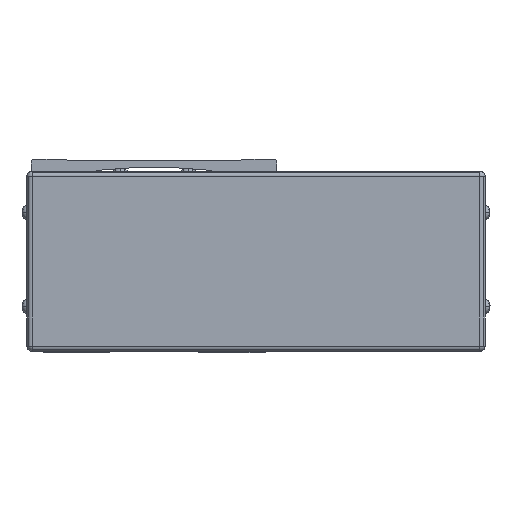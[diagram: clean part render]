
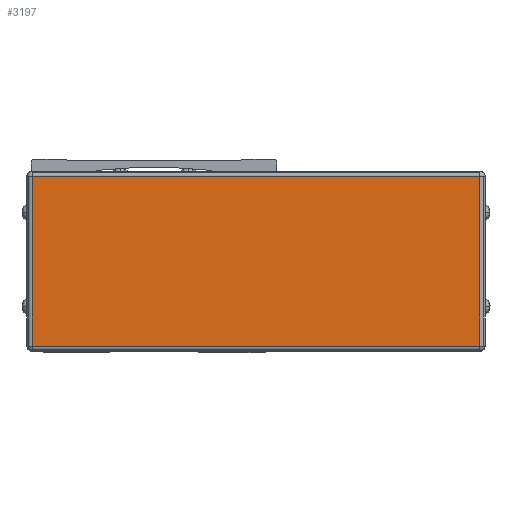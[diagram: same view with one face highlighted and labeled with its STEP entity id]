
A CAD part, front view. The second image highlights one B-rep face of the part: STEP entity #3197.
In plain terms, the highlighted planar face has unit normal (0, -1, 0).
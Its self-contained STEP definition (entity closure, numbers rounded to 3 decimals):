
#3197=ADVANCED_FACE('',(#7998),#7999,.T.);
#7998=FACE_OUTER_BOUND('',#15143,.T.);
#7999=PLANE('',#15144);
#15143=EDGE_LOOP('',(#25052,#25053,#25054,#25055));
#15144=AXIS2_PLACEMENT_3D('',#25056,#25057,#25058);
#25052=ORIENTED_EDGE('',*,*,#43318,.F.);
#25053=ORIENTED_EDGE('',*,*,#43319,.F.);
#25054=ORIENTED_EDGE('',*,*,#43320,.F.);
#25055=ORIENTED_EDGE('',*,*,#43321,.F.);
#25056=CARTESIAN_POINT('',(39.,86.222,-42.5));
#25057=DIRECTION('',(0.0,-1.0,0.0));
#25058=DIRECTION('',(1.0,0.0,0.0));
#43318=EDGE_CURVE('',#52610,#52611,#52612,.T.);
#43319=EDGE_CURVE('',#52613,#52610,#52614,.T.);
#43320=EDGE_CURVE('',#51424,#52613,#52615,.T.);
#43321=EDGE_CURVE('',#52611,#51424,#52616,.T.);
#51424=VERTEX_POINT('',#63828);
#52610=VERTEX_POINT('',#65573);
#52611=VERTEX_POINT('',#65574);
#52612=LINE('',#65575,#65576);
#52613=VERTEX_POINT('',#65577);
#52614=LINE('',#65578,#65579);
#52615=LINE('',#65580,#65581);
#52616=LINE('',#65582,#65583);
#63828=CARTESIAN_POINT('',(-46.7,86.222,24.5));
#65573=CARTESIAN_POINT('',(124.7,86.222,-40.5));
#65574=CARTESIAN_POINT('',(-46.7,86.222,-40.5));
#65575=CARTESIAN_POINT('',(39.,86.222,-40.5));
#65576=VECTOR('',#79783,10.0);
#65577=CARTESIAN_POINT('',(124.7,86.222,24.5));
#65578=CARTESIAN_POINT('',(124.7,86.222,-42.5));
#65579=VECTOR('',#79784,10.0);
#65580=CARTESIAN_POINT('',(39.,86.222,24.5));
#65581=VECTOR('',#79785,10.0);
#65582=CARTESIAN_POINT('',(-46.7,86.222,-42.5));
#65583=VECTOR('',#79786,10.0);
#79783=DIRECTION('',(-1.0,0.0,0.0));
#79784=DIRECTION('',(0.0,0.0,-1.0));
#79785=DIRECTION('',(1.0,0.0,0.0));
#79786=DIRECTION('',(0.0,0.0,1.0));
